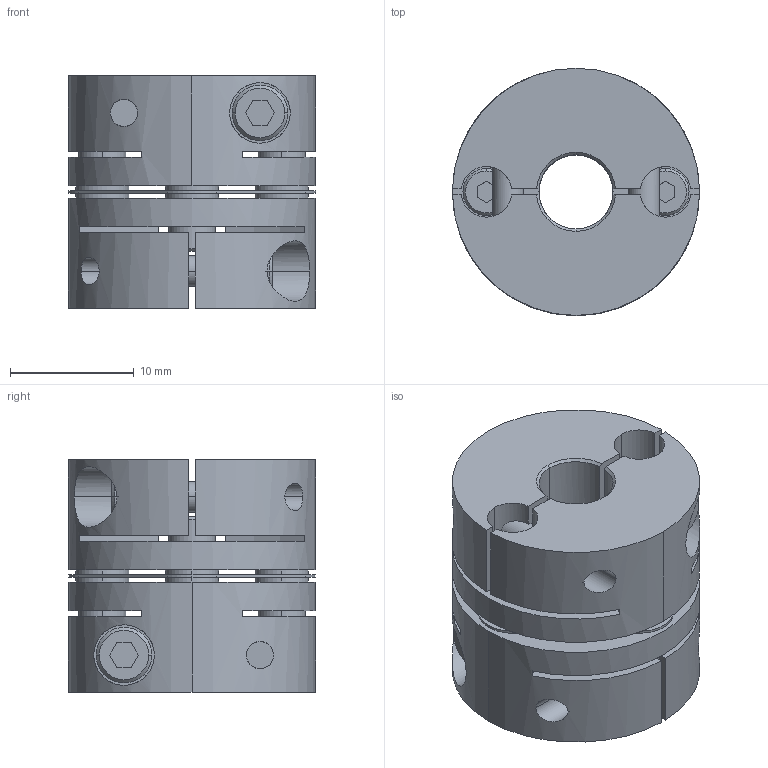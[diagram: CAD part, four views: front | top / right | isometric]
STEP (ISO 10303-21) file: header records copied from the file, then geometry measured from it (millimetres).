
FILE_DESCRIPTION((''),'2;1');
FILE_NAME('LAS-20C-6×6.stp','2011-08-10T08:56:32',(''),(''),'AutoCAD STEP 2000i','AutoCAD 2000i',', , ');
FILE_SCHEMA(('CONFIG_CONTROL_DESIGN'));
Length unit declared in the file: millimetre
Products named in the file (5): LAS-20C-4×4; 忣兜1; LA-2002-D04-1; LA-2002-D04; LAS20-ITA
Assembly tree (4 placements, depth 2):
  LAS-20C-4×4
    忣兜1
    LA-2002-D04-1
    LA-2002-D04
    LAS20-ITA
Bounding box: 20 x 20 x 18.8 mm (x, y, z)
Volume: 4510.9 mm3; surface area: 4534.9 mm2
Topology: 1 solids, 1 shells, 236 faces, 624 edges, 408 vertices
Faces by surface type: plane 112, cylinder 96, cone 28
Entity records: 8203 total; most frequent: CARTESIAN_POINT 2009, DIRECTION 1302, ORIENTED_EDGE 1248, EDGE_CURVE 624, AXIS2_PLACEMENT_3D 477, VERTEX_POINT 408, VECTOR 348, LINE 348
